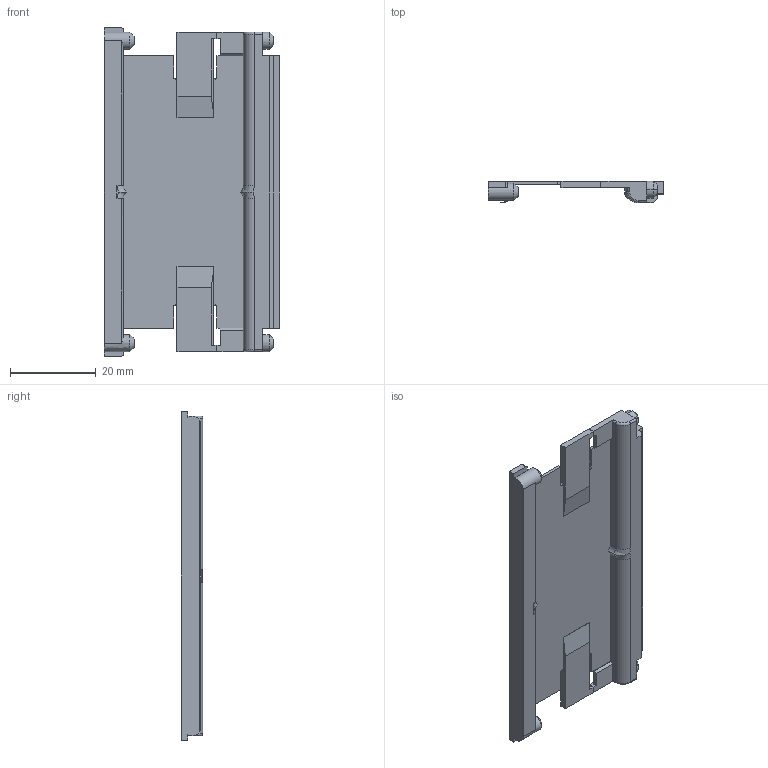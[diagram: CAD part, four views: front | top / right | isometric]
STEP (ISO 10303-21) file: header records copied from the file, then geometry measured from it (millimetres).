
FILE_DESCRIPTION((''),'2;1');
FILE_NAME('C:\Uebbing\PARAMETERKETTEN\KOLIBRI\Kol_65_095_1\Kol_65_095_1 Klappsteg.stp','2011-11-02T15:01:17',('Uebbing'),(''),'Autodesk Inventor 10','Autodesk Inventor 10','');
FILE_SCHEMA(('AUTOMOTIVE_DESIGN { 1 0 10303 214 1 1 1 1 }'));
Length unit declared in the file: millimetre
Products named in the file (1): Kol_65_095_1 Klappsteg
Bounding box: 41 x 5 x 76.6 mm (x, y, z)
Volume: 6028.2 mm3; surface area: 7263.3 mm2
Topology: 1 solids, 1 shells, 114 faces, 310 edges, 198 vertices
Faces by surface type: bspline 50, plane 44, cylinder 14, torus 3, cone 3
Full cylindrical faces by diameter (mm): 4 x1
Entity records: 3845 total; most frequent: CARTESIAN_POINT 1129, ORIENTED_EDGE 608, DIRECTION 484, EDGE_CURVE 304, VECTOR 226, LINE 226, VERTEX_POINT 196, AXIS2_PLACEMENT_3D 129
